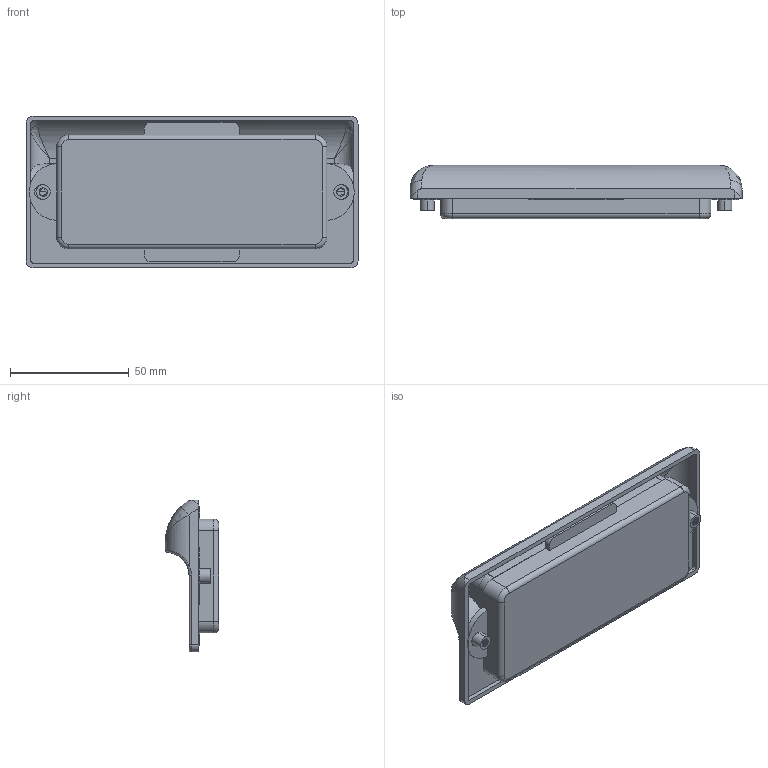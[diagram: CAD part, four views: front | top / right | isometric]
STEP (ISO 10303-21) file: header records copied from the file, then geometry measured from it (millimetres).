
FILE_DESCRIPTION (( 'STEP AP203' ), '1' );
FILE_NAME ('XG01-034-1.STEP', '2024-03-12T07:16:31', ( '' ), ( '' ), 'SwSTEP 2.0', 'SolidWorks 2020', '' );
FILE_SCHEMA (( 'CONFIG_CONTROL_DESIGN' ));
Length unit declared in the file: millimetre
Products named in the file (3): XG01-034-1; LS183-21; LS183-1
Assembly tree (2 placements, depth 2):
  XG01-034-1
    LS183-1
    LS183-21
Bounding box: 140 x 22.5 x 64 mm (x, y, z)
Volume: 32351.8 mm3; surface area: 36454.1 mm2
Topology: 2 solids, 2 shells, 242 faces, 668 edges, 424 vertices
Faces by surface type: cylinder 147, plane 59, bspline 18, torus 16, sphere 2
Entity records: 16779 total; most frequent: CARTESIAN_POINT 10923, ORIENTED_EDGE 1324, DIRECTION 1040, EDGE_CURVE 662, VERTEX_POINT 424, AXIS2_PLACEMENT_3D 383, VECTOR 274, LINE 274
